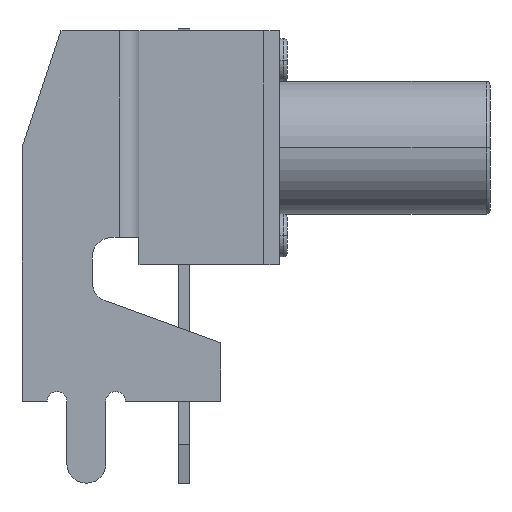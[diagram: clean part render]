
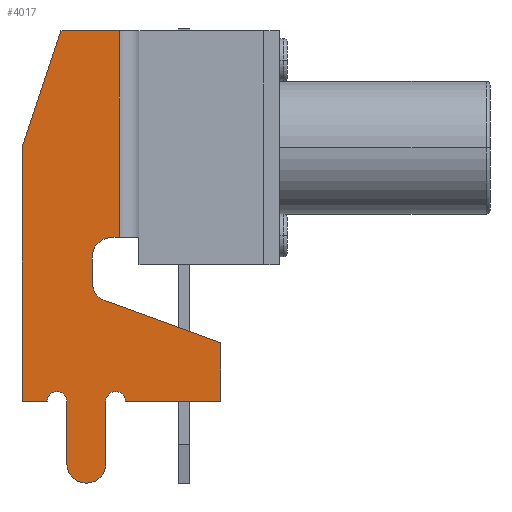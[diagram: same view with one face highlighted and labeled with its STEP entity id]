
A CAD part, left-side view. The second image highlights one B-rep face of the part: STEP entity #4017.
In plain terms, the highlighted planar face has unit normal (-1, 0, 0).
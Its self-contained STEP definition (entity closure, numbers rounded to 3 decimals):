
#2818=DIRECTION('',(0.,0.,1.));
#2819=VECTOR('',#2818,5.3);
#2820=CARTESIAN_POINT('',(-3.7,3.7,-2.3));
#2821=LINE('',#2820,#2819);
#3136=DIRECTION('',(0.,0.,-1.));
#3137=VECTOR('',#3136,1.6);
#3138=CARTESIAN_POINT('',(-3.7,5.05,-6.5));
#3139=LINE('',#3138,#3137);
#3144=CARTESIAN_POINT('',(-3.7,4.55,-8.1));
#3145=DIRECTION('',(1.,0.,0.));
#3146=DIRECTION('',(0.,-1.,0.));
#3147=AXIS2_PLACEMENT_3D('',#3144,#3145,#3146);
#3149=CARTESIAN_POINT('',(-3.7,5.3,-6.5));
#3150=DIRECTION('',(1.,0.,0.));
#3151=DIRECTION('',(0.,1.,0.));
#3152=AXIS2_PLACEMENT_3D('',#3149,#3150,#3151);
#3154=DIRECTION('',(0.,-1.,0.));
#3155=VECTOR('',#3154,0.65);
#3156=CARTESIAN_POINT('',(-3.7,6.2,-6.5));
#3157=LINE('',#3156,#3155);
#3158=DIRECTION('',(0.,0.316,-0.949));
#3159=VECTOR('',#3158,3.162);
#3160=CARTESIAN_POINT('',(-3.7,5.2,3.));
#3161=LINE('',#3160,#3159);
#3162=DIRECTION('',(0.,1.,0.));
#3163=VECTOR('',#3162,1.5);
#3164=CARTESIAN_POINT('',(-3.7,3.7,3.));
#3165=LINE('',#3164,#3163);
#3166=DIRECTION('',(0.,1.,0.));
#3167=VECTOR('',#3166,0.2);
#3168=CARTESIAN_POINT('',(-3.7,3.7,-2.3));
#3169=LINE('',#3168,#3167);
#3170=DIRECTION('',(0.,0.,-1.));
#3171=VECTOR('',#3170,0.65);
#3172=CARTESIAN_POINT('',(-3.7,4.4,-2.8));
#3173=LINE('',#3172,#3171);
#3174=DIRECTION('',(0.,-0.94,-0.342));
#3175=VECTOR('',#3174,3.161);
#3176=CARTESIAN_POINT('',(-3.7,4.071,-3.92));
#3177=LINE('',#3176,#3175);
#3178=DIRECTION('',(0.,0.,1.));
#3179=VECTOR('',#3178,1.5);
#3180=CARTESIAN_POINT('',(-3.7,1.1,-6.5));
#3181=LINE('',#3180,#3179);
#3182=DIRECTION('',(0.,-1.,0.));
#3183=VECTOR('',#3182,2.45);
#3184=CARTESIAN_POINT('',(-3.7,3.55,-6.5));
#3185=LINE('',#3184,#3183);
#3186=CARTESIAN_POINT('',(-3.7,3.8,-6.5));
#3187=DIRECTION('',(1.,0.,0.));
#3188=DIRECTION('',(0.,1.,0.));
#3189=AXIS2_PLACEMENT_3D('',#3186,#3187,#3188);
#3207=DIRECTION('',(0.,0.,-1.));
#3208=VECTOR('',#3207,1.6);
#3209=CARTESIAN_POINT('',(-3.7,4.05,-6.5));
#3210=LINE('',#3209,#3208);
#3227=CARTESIAN_POINT('',(-3.7,3.9,-3.45));
#3228=DIRECTION('',(1.,0.,0.));
#3229=DIRECTION('',(0.,0.342,-0.94));
#3230=AXIS2_PLACEMENT_3D('',#3227,#3228,#3229);
#3245=CARTESIAN_POINT('',(-3.7,3.9,-2.8));
#3246=DIRECTION('',(1.,0.,0.));
#3247=DIRECTION('',(0.,1.,0.));
#3248=AXIS2_PLACEMENT_3D('',#3245,#3246,#3247);
#3267=DIRECTION('',(0.,0.,-1.));
#3268=VECTOR('',#3267,6.5);
#3269=CARTESIAN_POINT('',(-3.7,6.2,0.));
#3270=LINE('',#3269,#3268);
#3291=CARTESIAN_POINT('',(-3.7,6.2,-6.5));
#3293=VERTEX_POINT('',#3291);
#3295=CARTESIAN_POINT('',(-3.7,1.1,-6.5));
#3297=VERTEX_POINT('',#3295);
#3307=CARTESIAN_POINT('',(-3.7,3.7,3.));
#3308=VERTEX_POINT('',#3307);
#3315=CARTESIAN_POINT('',(-3.7,5.2,3.));
#3316=CARTESIAN_POINT('',(-3.7,6.2,0.));
#3317=VERTEX_POINT('',#3315);
#3318=VERTEX_POINT('',#3316);
#3335=CARTESIAN_POINT('',(-3.7,3.7,-2.3));
#3336=VERTEX_POINT('',#3335);
#3339=CARTESIAN_POINT('',(-3.7,1.1,-5.));
#3340=VERTEX_POINT('',#3339);
#3355=CARTESIAN_POINT('',(-3.7,4.05,-6.5));
#3356=CARTESIAN_POINT('',(-3.7,3.55,-6.5));
#3357=VERTEX_POINT('',#3355);
#3358=VERTEX_POINT('',#3356);
#3359=CARTESIAN_POINT('',(-3.7,5.55,-6.5));
#3360=CARTESIAN_POINT('',(-3.7,5.05,-6.5));
#3361=VERTEX_POINT('',#3359);
#3362=VERTEX_POINT('',#3360);
#3399=CARTESIAN_POINT('',(-3.7,5.05,-8.1));
#3400=VERTEX_POINT('',#3399);
#3401=CARTESIAN_POINT('',(-3.7,4.05,-8.1));
#3402=VERTEX_POINT('',#3401);
#3419=CARTESIAN_POINT('',(-3.7,4.071,-3.92));
#3421=VERTEX_POINT('',#3419);
#3423=CARTESIAN_POINT('',(-3.7,4.4,-3.45));
#3425=VERTEX_POINT('',#3423);
#3427=CARTESIAN_POINT('',(-3.7,4.4,-2.8));
#3429=VERTEX_POINT('',#3427);
#3431=CARTESIAN_POINT('',(-3.7,3.9,-2.3));
#3433=VERTEX_POINT('',#3431);
#3980=CARTESIAN_POINT('',(-3.7,3.2,3.));
#3981=DIRECTION('',(-1.,0.,0.));
#3982=DIRECTION('',(0.,0.,1.));
#3983=AXIS2_PLACEMENT_3D('',#3980,#3981,#3982);
#3984=PLANE('',#3983);
#3985=ORIENTED_EDGE('',*,*,#3945,.T.);
#3986=ORIENTED_EDGE('',*,*,#3961,.F.);
#3987=ORIENTED_EDGE('',*,*,#3971,.F.);
#3989=ORIENTED_EDGE('',*,*,#3988,.F.);
#3991=ORIENTED_EDGE('',*,*,#3990,.F.);
#3993=ORIENTED_EDGE('',*,*,#3992,.F.);
#3995=ORIENTED_EDGE('',*,*,#3994,.F.);
#3996=ORIENTED_EDGE('',*,*,#3546,.F.);
#3998=ORIENTED_EDGE('',*,*,#3997,.T.);
#4000=ORIENTED_EDGE('',*,*,#3999,.F.);
#4002=ORIENTED_EDGE('',*,*,#4001,.T.);
#4004=ORIENTED_EDGE('',*,*,#4003,.F.);
#4006=ORIENTED_EDGE('',*,*,#4005,.T.);
#4008=ORIENTED_EDGE('',*,*,#4007,.F.);
#4010=ORIENTED_EDGE('',*,*,#4009,.F.);
#4012=ORIENTED_EDGE('',*,*,#4011,.F.);
#4014=ORIENTED_EDGE('',*,*,#4013,.T.);
#4015=EDGE_LOOP('',(#3985,#3986,#3987,#3989,#3991,#3993,#3995,#3996,#3998,#4000,
#4002,#4004,#4006,#4008,#4010,#4012,#4014));
#4016=FACE_OUTER_BOUND('',#4015,.F.);
#3148=CIRCLE('',#3147,0.5);
#3153=CIRCLE('',#3152,0.25);
#3190=CIRCLE('',#3189,0.25);
#3231=CIRCLE('',#3230,0.5);
#3249=CIRCLE('',#3248,0.5);
#3546=EDGE_CURVE('',#3336,#3308,#2821,.T.);
#3945=EDGE_CURVE('',#3402,#3400,#3148,.T.);
#3961=EDGE_CURVE('',#3362,#3400,#3139,.T.);
#3971=EDGE_CURVE('',#3361,#3362,#3153,.T.);
#3988=EDGE_CURVE('',#3293,#3361,#3157,.T.);
#3990=EDGE_CURVE('',#3318,#3293,#3270,.T.);
#3992=EDGE_CURVE('',#3317,#3318,#3161,.T.);
#3994=EDGE_CURVE('',#3308,#3317,#3165,.T.);
#3997=EDGE_CURVE('',#3336,#3433,#3169,.T.);
#3999=EDGE_CURVE('',#3429,#3433,#3249,.T.);
#4001=EDGE_CURVE('',#3429,#3425,#3173,.T.);
#4003=EDGE_CURVE('',#3421,#3425,#3231,.T.);
#4005=EDGE_CURVE('',#3421,#3340,#3177,.T.);
#4007=EDGE_CURVE('',#3297,#3340,#3181,.T.);
#4009=EDGE_CURVE('',#3358,#3297,#3185,.T.);
#4011=EDGE_CURVE('',#3357,#3358,#3190,.T.);
#4013=EDGE_CURVE('',#3357,#3402,#3210,.T.);
#4017=ADVANCED_FACE('',(#4016),#3984,.T.);
